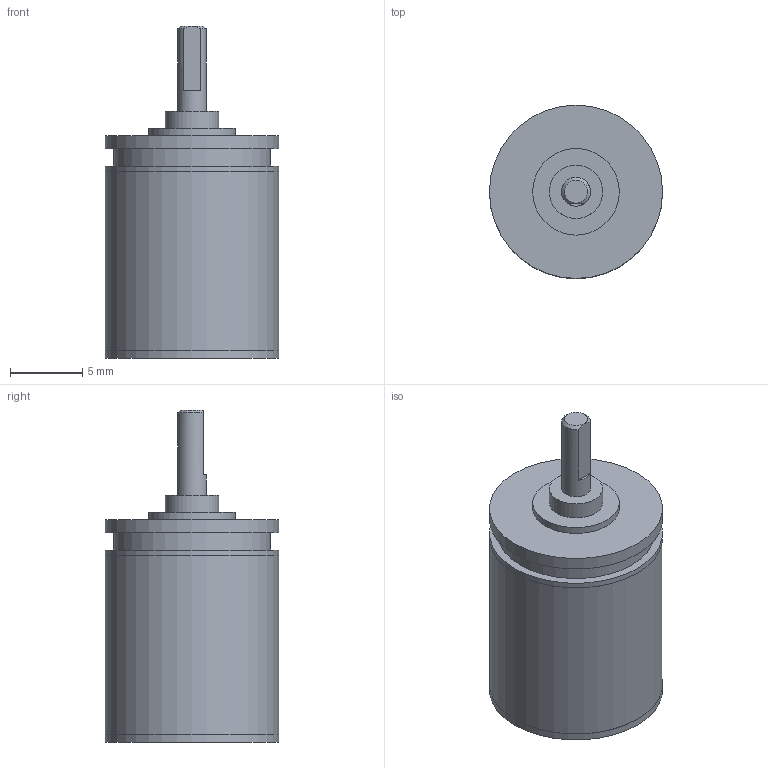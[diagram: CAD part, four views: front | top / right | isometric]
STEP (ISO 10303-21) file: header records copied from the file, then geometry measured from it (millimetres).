
FILE_DESCRIPTION(/* description */ (''),/* implementation_level */ '2;1');
FILE_NAME(/* name */ '12-3_3.stp',/* time_stamp */ '2016-08-24T10:05:16+02:00',/* author */ ('DR. FRITZ FAULHABER GmbH & Co. KG'),/* organization */ ('DR. FRITZ FAULHABER GmbH & Co. KG'),/* preprocessor_version */ 'ST-DEVELOPER v16',/* originating_system */ 'SIEMENS PLM Software NX 10.0',/* authorisation */ '');
FILE_SCHEMA (('AUTOMOTIVE_DESIGN { 1 0 10303 214 3 1 1 1 }'));
Length unit declared in the file: millimetre
Products named in the file (1): H00000566_A
Bounding box: 12 x 12 x 23 mm (x, y, z)
Volume: 1676.1 mm3; surface area: 993.1 mm2
Topology: 1 solids, 1 shells, 32 faces, 52 edges, 34 vertices
Faces by surface type: plane 16, cylinder 14, cone 2
Full cylindrical faces by diameter (mm): 2 x1, 2.48 x1, 2.6 x1, 3.7 x1, 5 x1, 6 x2, 10.88 x1, 11.99 x2, 12 x4
Entity records: 692 total; most frequent: DIRECTION 129, CARTESIAN_POINT 115, ORIENTED_EDGE 70, AXIS2_PLACEMENT_3D 63, EDGE_LOOP 59, FACE_BOUND 54, EDGE_CURVE 35, ADVANCED_FACE 32
